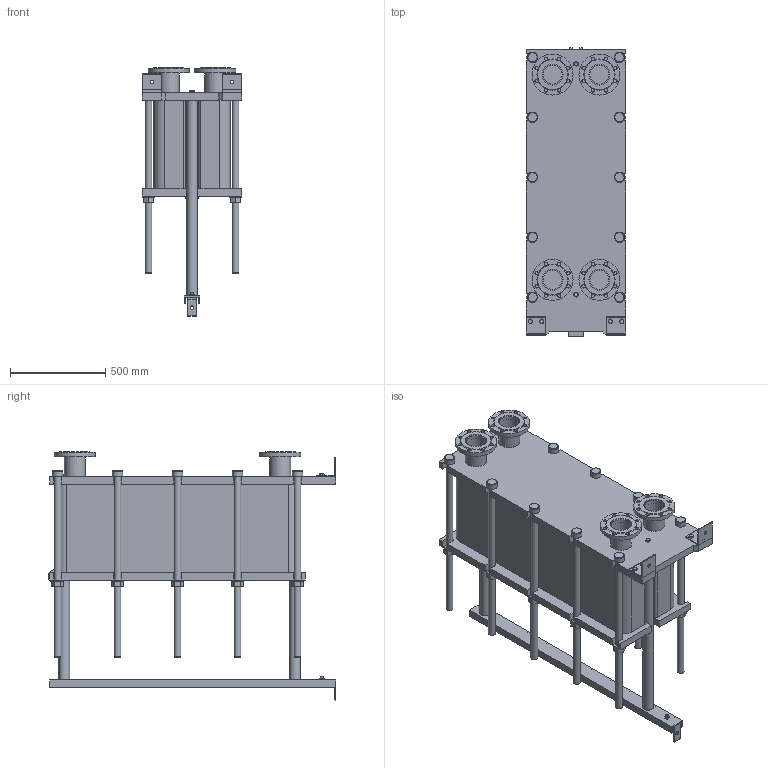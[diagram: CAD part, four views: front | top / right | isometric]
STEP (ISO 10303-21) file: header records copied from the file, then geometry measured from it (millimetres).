
FILE_DESCRIPTION(/* description */ (''),/* implementation_level */ '2;1');
FILE_NAME(/* name */ 'C:\Users\zhuro\Desktop\ENCO\TO\ЭН-04\ЭН-0,5-04-134-1.stp',/* time_stamp */ '2022-06-06T10:57:27+03:00',/* author */ ('zhuro'),/* organization */ (''),/* preprocessor_version */ 'ST-DEVELOPER v18.1',/* originating_system */ 'Autodesk Inventor 2022',/* authorisation */ '');
FILE_SCHEMA (('AUTOMOTIVE_DESIGN { 1 0 10303 214 3 1 1 }'));
Length unit declared in the file: millimetre
Products named in the file (1): ЭН-0,5-04-134-1
Bounding box: 520 x 1510 x 1302 mm (x, y, z)
Volume: 304073353.3 mm3; surface area: 9102925.2 mm2
Topology: 45 solids, 45 shells, 668 faces, 1611 edges, 1048 vertices
Faces by surface type: plane 457, cylinder 166, cone 39, torus 6
Full cylindrical faces by diameter (mm): 8 x4, 10 x2, 16 x8, 18 x35, 36 x25, 40 x2, 42 x1, 45 x4, 54 x10, 57 x2, 60 x10, 68 x2, 100 x4, 110 x8, 215 x4
Entity records: 23607 total; most frequent: CARTESIAN_POINT 7348, DIRECTION 3371, ORIENTED_EDGE 3142, EDGE_CURVE 1571, AXIS2_PLACEMENT_3D 1199, VERTEX_POINT 1044, LINE 973, VECTOR 973
